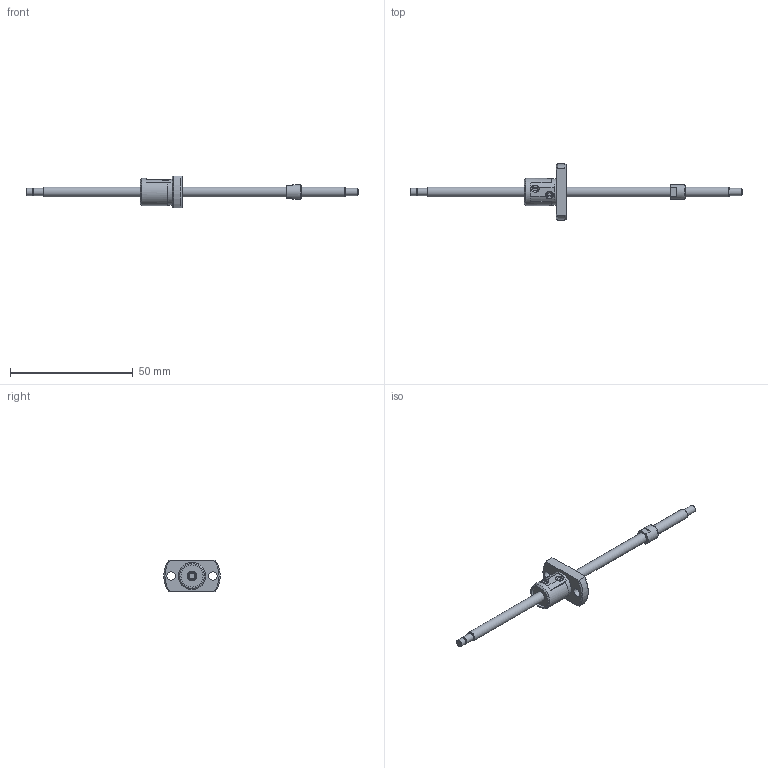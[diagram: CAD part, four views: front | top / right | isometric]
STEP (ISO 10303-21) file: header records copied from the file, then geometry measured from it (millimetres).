
FILE_DESCRIPTION(/* description */ ('STEP AP214'),/* implementation_level */ '2;1');
FILE_NAME(/* name */ 'SG0401-096R135C3B0X(39.5)',/* time_stamp */ '2026-07-20T19:39:56+02:00',/* author */ ('License CC BY-ND 4.0'),/* organization */ ('CADENAS'),/* preprocessor_version */ 'ST-DEVELOPER v20',/* originating_system */ 'PARTsolutions',/* authorisation */ ' ');
FILE_SCHEMA (('AUTOMOTIVE_DESIGN {1 0 10303 214 3 1 1}'));
Length unit declared in the file: millimetre
Products named in the file (3): SG0401-096R135C3B0X(39.5); SG0401-96R135C3B_shaft; SG0401_nut
Assembly tree (2 placements, depth 2):
  SG0401-096R135C3B0X(39.5)
    SG0401-96R135C3B_shaft
    SG0401_nut
Bounding box: 135 x 22.92 x 13 mm (x, y, z)
Volume: 3637.1 mm3; surface area: 3294.2 mm2
Topology: 2 solids, 2 shells, 78 faces, 184 edges, 121 vertices
Faces by surface type: plane 37, cylinder 26, cone 14, torus 1
Full cylindrical faces by diameter (mm): 2.7 x1, 3 x3, 3.4 x2, 4 x3, 6 x1, 9 x2, 10.6 x1, 11 x1
Entity records: 2165 total; most frequent: CARTESIAN_POINT 401, DIRECTION 368, ORIENTED_EDGE 300, AXIS2_PLACEMENT_3D 155, EDGE_CURVE 150, EDGE_LOOP 120, FACE_BOUND 120, VERTEX_POINT 112
